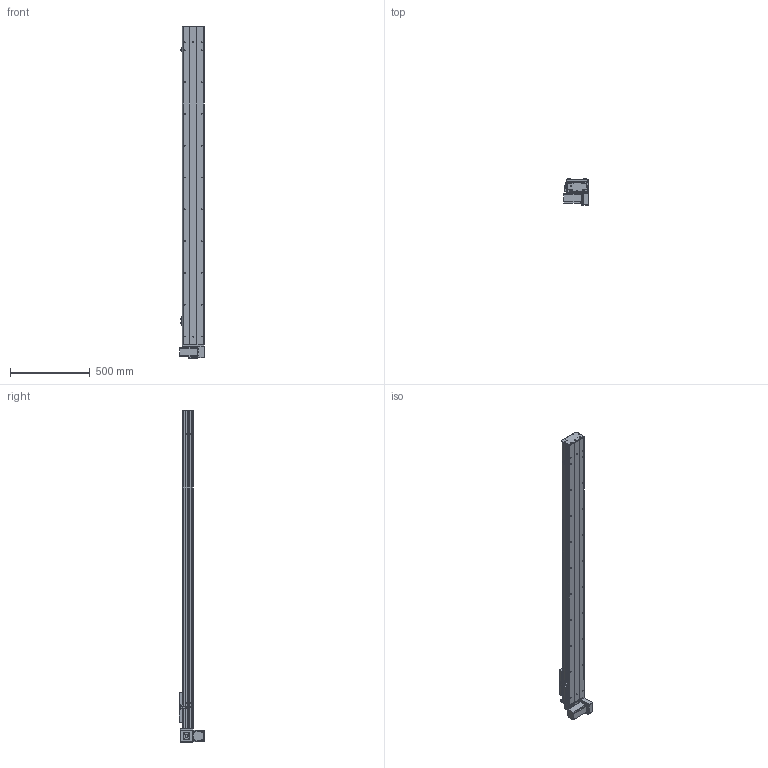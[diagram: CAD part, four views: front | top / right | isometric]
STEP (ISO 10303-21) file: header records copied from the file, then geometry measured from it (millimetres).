
FILE_DESCRIPTION (( 'STEP AP203' ), '1' );
FILE_NAME ('Y135CB-D90-S1700-BM-P400W.STEP', '2020-02-19T01:32:55', ( '微软用户' ), ( '微软中国' ), 'SwSTEP 2.0', 'SolidWorks 2017', '' );
FILE_SCHEMA (( 'CONFIG_CONTROL_DESIGN' ));
Length unit declared in the file: millimetre
Products named in the file (18): 0B-萇儂楊擘啣; Y100-135俋离換覜ん--; Y135C-陔俋离換覜結え-; 5C--俋欶; Y135CB-耜裔; C-雄赽釱--; 135CB---遴掛极.-; Y10B--々湍喘謫眊--666; san松下电机400不带刹车----; 35CB---喘謫眊楊擘啣; 00B-俋欶BM--; 5CB --掛极耜裔啣-; 0B-埴倛裔啣; Y10B-耜蚾蟀諉啣----; C-詩湍揤踡え-陔; 0B-源倛裔啣; Y135CB-D90-S1700-BM-P400W; 135CB--詩湍-CE
Assembly tree (21 placements, depth 2):
  Y135CB-D90-S1700-BM-P400W
    Y135CB-耜裔
    135CB---遴掛极.-
    35CB---喘謫眊楊擘啣
    0B-埴倛裔啣
    0B-源倛裔啣
    0B-萇儂楊擘啣
    san松下电机400不带刹车----
    5CB --掛极耜裔啣-  x2
    C-詩湍揤踡え-陔  x2
    135CB--詩湍-CE
    Y100-135俋离換覜ん--  x3
    Y135C-陔俋离換覜結え-
    5C--俋欶
    C-雄赽釱--
    Y10B--々湍喘謫眊--666
    00B-俋欶BM--
    Y10B-耜蚾蟀諉啣----
Bounding box: 157 x 163.3 x 2088 mm (x, y, z)
Volume: 6204176.7 mm3; surface area: 2446037.4 mm2
Topology: 21 solids, 21 shells, 961 faces, 2599 edges, 1722 vertices
Faces by surface type: cylinder 489, plane 456, cone 16
Entity records: 30157 total; most frequent: DIRECTION 5011, CARTESIAN_POINT 4988, ORIENTED_EDGE 4674, EDGE_CURVE 2337, AXIS2_PLACEMENT_3D 1833, VERTEX_POINT 1550, VECTOR 1345, LINE 1345
